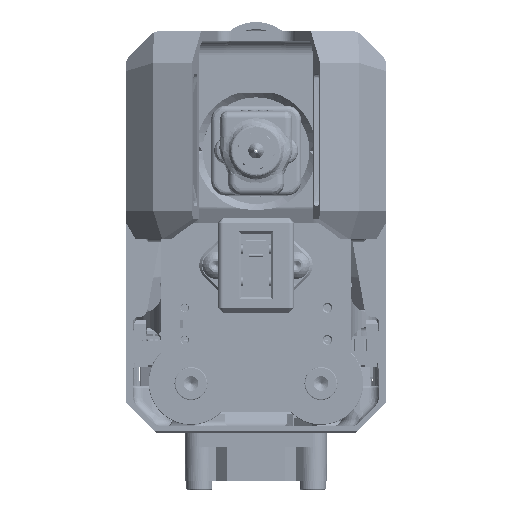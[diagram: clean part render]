
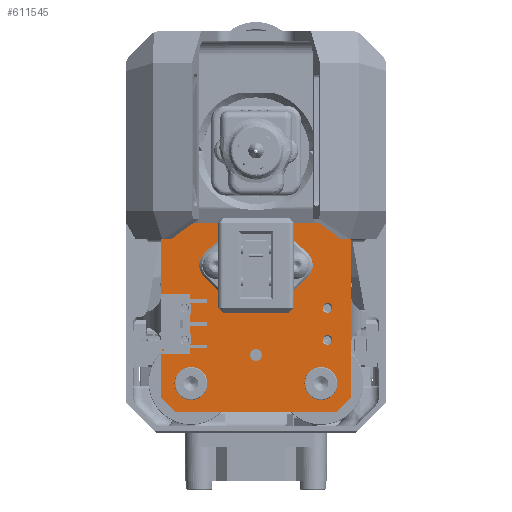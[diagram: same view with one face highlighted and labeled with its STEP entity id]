
A CAD part, front view. The second image highlights one B-rep face of the part: STEP entity #611545.
In plain terms, the highlighted planar face has unit normal (0, -1, 0).
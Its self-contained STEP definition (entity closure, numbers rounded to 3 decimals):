
#3232 = ORIENTED_EDGE ( 'NONE', *, *, #576892, .F. ) ;
#5290 = EDGE_LOOP ( 'NONE', ( #448465 ) ) ;
#5743 = CIRCLE ( 'NONE', #513187, 1.25 ) ;
#6802 = DIRECTION ( 'NONE',  ( 0.707, 0., 0.707 ) ) ;
#7888 = LINE ( 'NONE', #817461, #447749 ) ;
#14090 = EDGE_CURVE ( 'NONE', #701963, #701963, #5743, .T. ) ;
#19455 = AXIS2_PLACEMENT_3D ( 'NONE', #671664, #880420, #326542 ) ;
#23176 = AXIS2_PLACEMENT_3D ( 'NONE', #442171, #246760, #29026 ) ;
#27761 = DIRECTION ( 'NONE',  ( 0., 0., -1. ) ) ;
#29026 = DIRECTION ( 'NONE',  ( 0., 0., -1. ) ) ;
#34148 = CIRCLE ( 'NONE', #121662, 1.25 ) ;
#45435 = AXIS2_PLACEMENT_3D ( 'NONE', #817380, #553805, #281331 ) ;
#49598 = FACE_BOUND ( 'NONE', #772133, .T. ) ;
#49928 = EDGE_LOOP ( 'NONE', ( #268461 ) ) ;
#50300 = EDGE_LOOP ( 'NONE', ( #685637 ) ) ;
#67606 = FACE_OUTER_BOUND ( 'NONE', #90902, .T. ) ;
#83788 = VECTOR ( 'NONE', #6802, 1000. ) ;
#90902 = EDGE_LOOP ( 'NONE', ( #324556, #238584, #3232, #139279, #94615, #310267 ) ) ;
#94615 = ORIENTED_EDGE ( 'NONE', *, *, #235711, .F. ) ;
#117791 = FACE_BOUND ( 'NONE', #802165, .T. ) ;
#121662 = AXIS2_PLACEMENT_3D ( 'NONE', #649875, #164034, #27761 ) ;
#121962 = AXIS2_PLACEMENT_3D ( 'NONE', #859048, #241439, #250390 ) ;
#132306 = CARTESIAN_POINT ( 'NONE',  ( 0., -20., 20. ) ) ;
#139279 = ORIENTED_EDGE ( 'NONE', *, *, #480051, .T. ) ;
#140509 = CARTESIAN_POINT ( 'NONE',  ( 18., -20., 14.075 ) ) ;
#143795 = VERTEX_POINT ( 'NONE', #293320 ) ;
#148715 = DIRECTION ( 'NONE',  ( 0., 0., -1. ) ) ;
#149322 = CARTESIAN_POINT ( 'NONE',  ( 34., -20., -13.75 ) ) ;
#159075 = LINE ( 'NONE', #227155, #509432 ) ;
#159298 = EDGE_CURVE ( 'NONE', #491857, #581461, #556216, .T. ) ;
#164034 = DIRECTION ( 'NONE',  ( 0., -1., 0. ) ) ;
#176043 = CARTESIAN_POINT ( 'NONE',  ( 9., -20., 7.25 ) ) ;
#188142 = VECTOR ( 'NONE', #294044, 1000. ) ;
#194837 = FACE_BOUND ( 'NONE', #487476, .T. ) ;
#197006 = CARTESIAN_POINT ( 'NONE',  ( 28., -20., 0. ) ) ;
#199398 = DIRECTION ( 'NONE',  ( 0., -1., 0. ) ) ;
#205971 = DIRECTION ( 'NONE',  ( 0., 0., -1. ) ) ;
#208604 = VERTEX_POINT ( 'NONE', #140509 ) ;
#211791 = EDGE_CURVE ( 'NONE', #499879, #499879, #809151, .T. ) ;
#221089 = DIRECTION ( 'NONE',  ( 1., 0., 0. ) ) ;
#226135 = EDGE_CURVE ( 'NONE', #627350, #627350, #34148, .T. ) ;
#227155 = CARTESIAN_POINT ( 'NONE',  ( 40., -20., 20. ) ) ;
#234872 = LINE ( 'NONE', #311819, #188142 ) ;
#235711 = EDGE_CURVE ( 'NONE', #311128, #687925, #7888, .T. ) ;
#238584 = ORIENTED_EDGE ( 'NONE', *, *, #159298, .T. ) ;
#241439 = DIRECTION ( 'NONE',  ( 0., -1., 0. ) ) ;
#246760 = DIRECTION ( 'NONE',  ( 0., -1., 0. ) ) ;
#249687 = EDGE_LOOP ( 'NONE', ( #853730 ) ) ;
#250390 = DIRECTION ( 'NONE',  ( 0., 0., -1. ) ) ;
#259979 = VERTEX_POINT ( 'NONE', #886453 ) ;
#262592 = CIRCLE ( 'NONE', #363766, 2.5 ) ;
#268461 = ORIENTED_EDGE ( 'NONE', *, *, #836066, .F. ) ;
#281331 = DIRECTION ( 'NONE',  ( 0., 0., -1. ) ) ;
#293320 = CARTESIAN_POINT ( 'NONE',  ( 34., -20., -16.25 ) ) ;
#294044 = DIRECTION ( 'NONE',  ( -0.707, 0., 0.707 ) ) ;
#294364 = EDGE_CURVE ( 'NONE', #311128, #392480, #399985, .T. ) ;
#302677 = DIRECTION ( 'NONE',  ( 0., -1., 0. ) ) ;
#310267 = ORIENTED_EDGE ( 'NONE', *, *, #294364, .T. ) ;
#311128 = VERTEX_POINT ( 'NONE', #132306 ) ;
#311819 = CARTESIAN_POINT ( 'NONE',  ( 40., -20., 17. ) ) ;
#315628 = EDGE_CURVE ( 'NONE', #771375, #771375, #761589, .T. ) ;
#322404 = CARTESIAN_POINT ( 'NONE',  ( 24.8, -20., 14.075 ) ) ;
#324556 = ORIENTED_EDGE ( 'NONE', *, *, #809975, .T. ) ;
#325117 = ORIENTED_EDGE ( 'NONE', *, *, #673480, .F. ) ;
#326542 = DIRECTION ( 'NONE',  ( 0., 0., 1. ) ) ;
#351851 = CARTESIAN_POINT ( 'NONE',  ( 37., -20., -20. ) ) ;
#359173 = CARTESIAN_POINT ( 'NONE',  ( 9., -20., -9.75 ) ) ;
#363766 = AXIS2_PLACEMENT_3D ( 'NONE', #149322, #694223, #621747 ) ;
#390402 = DIRECTION ( 'NONE',  ( 0., -1., 0. ) ) ;
#392480 = VERTEX_POINT ( 'NONE', #427280 ) ;
#397748 = CIRCLE ( 'NONE', #673324, 1.25 ) ;
#398706 = ORIENTED_EDGE ( 'NONE', *, *, #425186, .F. ) ;
#399985 = LINE ( 'NONE', #800944, #855662 ) ;
#412648 = CARTESIAN_POINT ( 'NONE',  ( 9., -20., 8.5 ) ) ;
#416400 = LINE ( 'NONE', #702360, #709435 ) ;
#425186 = EDGE_CURVE ( 'NONE', #529959, #529959, #397748, .T. ) ;
#427280 = CARTESIAN_POINT ( 'NONE',  ( 0., -20., -20. ) ) ;
#437092 = EDGE_LOOP ( 'NONE', ( #550826 ) ) ;
#438906 = CARTESIAN_POINT ( 'NONE',  ( 34., -20., 13.75 ) ) ;
#442171 = CARTESIAN_POINT ( 'NONE',  ( 24.8, -20., 15.1 ) ) ;
#444898 = DIRECTION ( 'NONE',  ( 0., 0., -1. ) ) ;
#447749 = VECTOR ( 'NONE', #467924, 1000. ) ;
#448465 = ORIENTED_EDGE ( 'NONE', *, *, #211791, .F. ) ;
#467924 = DIRECTION ( 'NONE',  ( 1., 0., 0. ) ) ;
#468176 = EDGE_CURVE ( 'NONE', #143795, #143795, #262592, .T. ) ;
#477094 = DIRECTION ( 'NONE',  ( 0., 0., -1. ) ) ;
#480051 = EDGE_CURVE ( 'NONE', #481032, #687925, #234872, .T. ) ;
#480677 = FACE_BOUND ( 'NONE', #5290, .T. ) ;
#481032 = VERTEX_POINT ( 'NONE', #626028 ) ;
#487476 = EDGE_LOOP ( 'NONE', ( #867145 ) ) ;
#491857 = VERTEX_POINT ( 'NONE', #816306 ) ;
#499879 = VERTEX_POINT ( 'NONE', #840605 ) ;
#506497 = CARTESIAN_POINT ( 'NONE',  ( 28., -20., -1.25 ) ) ;
#509432 = VECTOR ( 'NONE', #444898, 1000. ) ;
#513187 = AXIS2_PLACEMENT_3D ( 'NONE', #197006, #845905, #205971 ) ;
#529959 = VERTEX_POINT ( 'NONE', #176043 ) ;
#530884 = PLANE ( 'NONE',  #19455 ) ;
#533357 = EDGE_LOOP ( 'NONE', ( #398706 ) ) ;
#548917 = DIRECTION ( 'NONE',  ( 0., 0., -1. ) ) ;
#550826 = ORIENTED_EDGE ( 'NONE', *, *, #14090, .F. ) ;
#553805 = DIRECTION ( 'NONE',  ( 0., -1., 0. ) ) ;
#556216 = LINE ( 'NONE', #351851, #83788 ) ;
#576892 = EDGE_CURVE ( 'NONE', #481032, #581461, #159075, .T. ) ;
#581461 = VERTEX_POINT ( 'NONE', #692141 ) ;
#594973 = CARTESIAN_POINT ( 'NONE',  ( 18., -20., -15.1 ) ) ;
#608177 = FACE_BOUND ( 'NONE', #533357, .T. ) ;
#611545 = ADVANCED_FACE ( 'NONE', ( #194837, #49598, #807921, #617090, #608177, #812421, #757681, #480677, #117791, #67606 ), #530884, .F. ) ;
#617090 = FACE_BOUND ( 'NONE', #50300, .T. ) ;
#621747 = DIRECTION ( 'NONE',  ( 0., 0., -1. ) ) ;
#626028 = CARTESIAN_POINT ( 'NONE',  ( 40., -20., 17. ) ) ;
#627350 = VERTEX_POINT ( 'NONE', #359173 ) ;
#631418 = AXIS2_PLACEMENT_3D ( 'NONE', #594973, #390402, #871771 ) ;
#644485 = CIRCLE ( 'NONE', #121962, 1.025 ) ;
#649875 = CARTESIAN_POINT ( 'NONE',  ( 9., -20., -8.5 ) ) ;
#671664 = CARTESIAN_POINT ( 'NONE',  ( 0., -20., 20. ) ) ;
#673324 = AXIS2_PLACEMENT_3D ( 'NONE', #412648, #199398, #548917 ) ;
#673480 = EDGE_CURVE ( 'NONE', #680974, #680974, #806784, .T. ) ;
#680974 = VERTEX_POINT ( 'NONE', #322404 ) ;
#685637 = ORIENTED_EDGE ( 'NONE', *, *, #226135, .F. ) ;
#687925 = VERTEX_POINT ( 'NONE', #714789 ) ;
#692141 = CARTESIAN_POINT ( 'NONE',  ( 40., -20., -17. ) ) ;
#694223 = DIRECTION ( 'NONE',  ( 0., -1., 0. ) ) ;
#701963 = VERTEX_POINT ( 'NONE', #506497 ) ;
#702360 = CARTESIAN_POINT ( 'NONE',  ( 0., -20., -20. ) ) ;
#709435 = VECTOR ( 'NONE', #221089, 1000. ) ;
#709519 = ORIENTED_EDGE ( 'NONE', *, *, #468176, .F. ) ;
#714789 = CARTESIAN_POINT ( 'NONE',  ( 37., -20., 20. ) ) ;
#732247 = EDGE_CURVE ( 'NONE', #208604, #208604, #644485, .T. ) ;
#757681 = FACE_BOUND ( 'NONE', #49928, .T. ) ;
#761589 = CIRCLE ( 'NONE', #631418, 1.025 ) ;
#771375 = VERTEX_POINT ( 'NONE', #861760 ) ;
#772133 = EDGE_LOOP ( 'NONE', ( #325117 ) ) ;
#784362 = CIRCLE ( 'NONE', #45435, 1.025 ) ;
#800944 = CARTESIAN_POINT ( 'NONE',  ( 0., -20., 20. ) ) ;
#802165 = EDGE_LOOP ( 'NONE', ( #709519 ) ) ;
#806784 = CIRCLE ( 'NONE', #23176, 1.025 ) ;
#807921 = FACE_BOUND ( 'NONE', #437092, .T. ) ;
#809151 = CIRCLE ( 'NONE', #853201, 2.5 ) ;
#809975 = EDGE_CURVE ( 'NONE', #392480, #491857, #416400, .T. ) ;
#812421 = FACE_BOUND ( 'NONE', #249687, .T. ) ;
#816306 = CARTESIAN_POINT ( 'NONE',  ( 37., -20., -20. ) ) ;
#817380 = CARTESIAN_POINT ( 'NONE',  ( 24.8, -20., -15.1 ) ) ;
#817461 = CARTESIAN_POINT ( 'NONE',  ( 0., -20., 20. ) ) ;
#836066 = EDGE_CURVE ( 'NONE', #259979, #259979, #784362, .T. ) ;
#840605 = CARTESIAN_POINT ( 'NONE',  ( 34., -20., 11.25 ) ) ;
#845905 = DIRECTION ( 'NONE',  ( 0., -1., 0. ) ) ;
#853201 = AXIS2_PLACEMENT_3D ( 'NONE', #438906, #302677, #148715 ) ;
#853730 = ORIENTED_EDGE ( 'NONE', *, *, #315628, .F. ) ;
#855662 = VECTOR ( 'NONE', #477094, 1000. ) ;
#859048 = CARTESIAN_POINT ( 'NONE',  ( 18., -20., 15.1 ) ) ;
#861760 = CARTESIAN_POINT ( 'NONE',  ( 18., -20., -16.125 ) ) ;
#867145 = ORIENTED_EDGE ( 'NONE', *, *, #732247, .F. ) ;
#871771 = DIRECTION ( 'NONE',  ( 0., 0., -1. ) ) ;
#880420 = DIRECTION ( 'NONE',  ( 0., 1., 0. ) ) ;
#886453 = CARTESIAN_POINT ( 'NONE',  ( 24.8, -20., -16.125 ) ) ;
